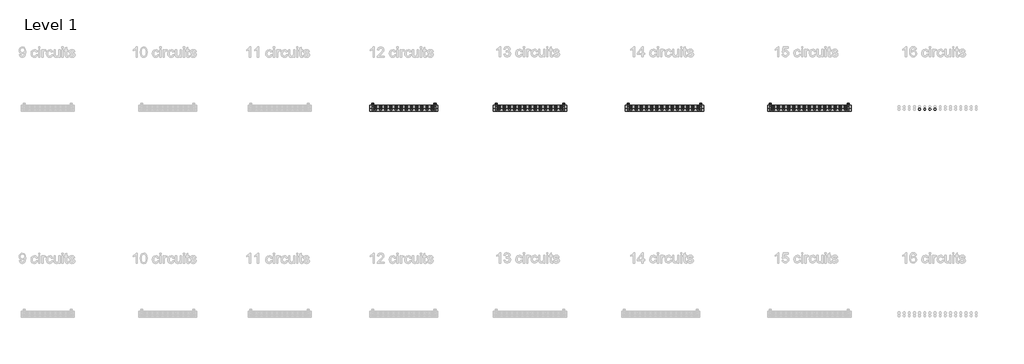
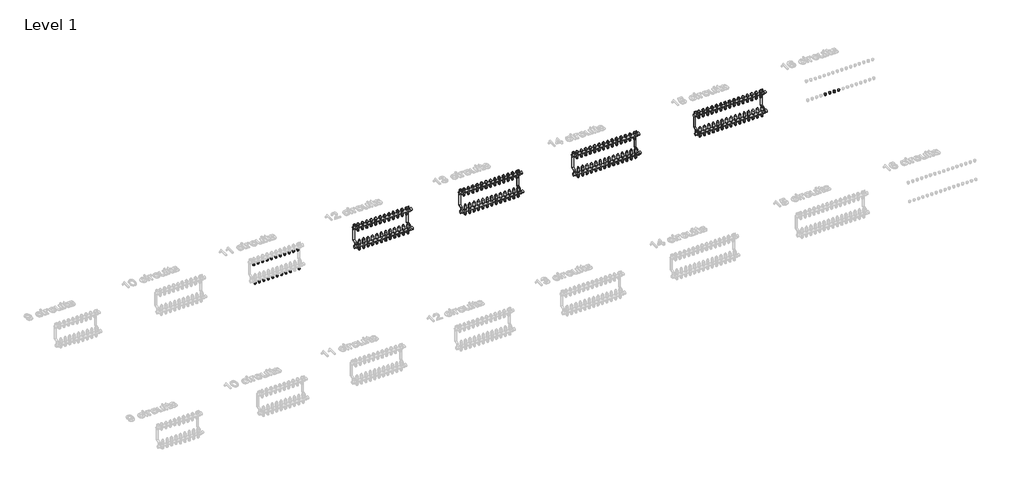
# One storey, part 4 of 13: 133 pipe fittings, 4 valves.
"""IFC4 building model written with IfcOpenShell, lengths in millimetres."""

from ifc_helpers import new_model, si_unit, origin, place, context, project, spatial, transform, mapped, element, save
from components import pipe_fitting_03c6499f, valve_b043caab, valve_d1a48dd4, valve_8c27288c, valve_323f5917, valve_2908c385, valve_c6b07a0e, valve_afcc5f03, valve_d5daf2db, valve_eef75e3c, valve_ba84b301, valve_6797e1c4, valve_e0eb0583, valve_b42ebe50, valve_7d993025, valve_5755080d, valve_f9b138b1

model = new_model("IFC4")

# Units and contexts
model_context = context("Model", 3, world=origin())
ifc_project = project(units=[si_unit("LENGTHUNIT", "METRE", prefix="MILLI")], contexts=[model_context])

# Site, building, storey
site = spatial("IfcSite", under=ifc_project)
building = spatial("IfcBuilding", under=site)
storey = spatial("IfcBuildingStorey", under=building, Name="Level 1", Elevation=0.0)

# Pipe fittings
placement = place(None, origin())
pipe_fitting_shape = pipe_fitting_03c6499f(model_context)
element("IfcPipeFitting", 1, ObjectType="Euroconus screwing for multilayer pipes - Manifold FT : Euroconus screwing for multilayer pipes - Manifold FT", at=placement, inside=storey, context=model_context, shape_type="MappedRepresentation", body=[
    mapped(pipe_fitting_shape, transform((10757.2354504, 1582.3227774, -37.0816103), x_axis=(0.0, 0.0, -1.0), y_axis=(0.0, 1.0000000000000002, 0.0), z_axis=(1.0000000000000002, 0.0, 0.0))),
])
element("IfcPipeFitting", 2, ObjectType="Euroconus screwing for multilayer pipes - Manifold FT : Euroconus screwing for multilayer pipes - Manifold FT", at=placement, inside=storey, context=model_context, shape_type="MappedRepresentation", body=[
    mapped(pipe_fitting_shape, transform((10707.2354504, 1582.3227774, -37.0816103), x_axis=(0.0, 0.0, -1.0), y_axis=(0.0, 1.0000000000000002, 0.0), z_axis=(1.0000000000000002, 0.0, 0.0))),
])
element("IfcPipeFitting", 3, ObjectType="Euroconus screwing for multilayer pipes - Manifold FT : Euroconus screwing for multilayer pipes - Manifold FT", at=placement, inside=storey, context=model_context, shape_type="MappedRepresentation", body=[
    mapped(pipe_fitting_shape, transform((10657.2354504, 1582.3227774, -37.0816103), x_axis=(0.0, 0.0, -1.0), y_axis=(0.0, 1.0000000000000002, 0.0), z_axis=(1.0000000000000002, 0.0, 0.0))),
])
element("IfcPipeFitting", 4, ObjectType="Euroconus screwing for multilayer pipes - Manifold FT : Euroconus screwing for multilayer pipes - Manifold FT", at=placement, inside=storey, context=model_context, shape_type="MappedRepresentation", body=[
    mapped(pipe_fitting_shape, transform((10607.2354504, 1582.3227774, -37.0816103), x_axis=(0.0, 0.0, -1.0), y_axis=(0.0, 1.0000000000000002, 0.0), z_axis=(1.0000000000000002, 0.0, 0.0))),
])
element("IfcPipeFitting", 5, ObjectType="Euroconus screwing for multilayer pipes - Manifold FT : Euroconus screwing for multilayer pipes - Manifold FT", at=placement, inside=storey, context=model_context, shape_type="MappedRepresentation", body=[
    mapped(pipe_fitting_shape, transform((10557.2354504, 1582.3227774, -37.0816103), x_axis=(0.0, 0.0, -1.0), y_axis=(0.0, 1.0000000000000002, 0.0), z_axis=(1.0000000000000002, 0.0, 0.0))),
])
element("IfcPipeFitting", 6, ObjectType="Euroconus screwing for multilayer pipes - Manifold FT : Euroconus screwing for multilayer pipes - Manifold FT", at=placement, inside=storey, context=model_context, shape_type="MappedRepresentation", body=[
    mapped(pipe_fitting_shape, transform((10507.2354504, 1582.3227774, -37.0816103), x_axis=(0.0, 0.0, -1.0), y_axis=(0.0, 1.0000000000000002, 0.0), z_axis=(1.0000000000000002, 0.0, 0.0))),
])
element("IfcPipeFitting", 7, ObjectType="Euroconus screwing for multilayer pipes - Manifold FT : Euroconus screwing for multilayer pipes - Manifold FT", at=placement, inside=storey, context=model_context, shape_type="MappedRepresentation", body=[
    mapped(pipe_fitting_shape, transform((10457.2354504, 1582.3227774, -37.0816103), x_axis=(0.0, 0.0, -1.0), y_axis=(0.0, 1.0000000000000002, 0.0), z_axis=(1.0000000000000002, 0.0, 0.0))),
])
element("IfcPipeFitting", 8, ObjectType="Euroconus screwing for multilayer pipes - Manifold FT : Euroconus screwing for multilayer pipes - Manifold FT", at=placement, inside=storey, context=model_context, shape_type="MappedRepresentation", body=[
    mapped(pipe_fitting_shape, transform((10407.2354504, 1582.3227774, -37.0816103), x_axis=(0.0, 0.0, -1.0), y_axis=(0.0, 1.0000000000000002, 0.0), z_axis=(1.0000000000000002, 0.0, 0.0))),
])
element("IfcPipeFitting", 9, ObjectType="Euroconus screwing for multilayer pipes - Manifold FT : Euroconus screwing for multilayer pipes - Manifold FT", at=placement, inside=storey, context=model_context, shape_type="MappedRepresentation", body=[
    mapped(pipe_fitting_shape, transform((10857.2354504, 1582.3227774, -37.0816103), x_axis=(0.0, 0.0, -1.0), y_axis=(0.0, 1.0000000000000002, 0.0), z_axis=(1.0000000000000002, 0.0, 0.0))),
])
element("IfcPipeFitting", 10, ObjectType="Euroconus screwing for multilayer pipes - Manifold FT : Euroconus screwing for multilayer pipes - Manifold FT", at=placement, inside=storey, context=model_context, shape_type="MappedRepresentation", body=[
    mapped(pipe_fitting_shape, transform((10357.2354504, 1582.3227774, -37.0816103), x_axis=(0.0, 0.0, -1.0), y_axis=(0.0, 1.0000000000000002, 0.0), z_axis=(1.0000000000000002, 0.0, 0.0))),
])
element("IfcPipeFitting", 11, ObjectType="Euroconus screwing for multilayer pipes - Manifold FT : Euroconus screwing for multilayer pipes - Manifold FT", at=placement, inside=storey, context=model_context, shape_type="MappedRepresentation", body=[
    mapped(pipe_fitting_shape, transform((10807.2354504, 1607.3227774, 172.88733), x_axis=(0.0, 0.0, -1.0), y_axis=(0.0, 1.0000000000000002, 0.0), z_axis=(1.0000000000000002, 0.0, 0.0))),
])
element("IfcPipeFitting", 12, ObjectType="Euroconus screwing for multilayer pipes - Manifold FT : Euroconus screwing for multilayer pipes - Manifold FT", at=placement, inside=storey, context=model_context, shape_type="MappedRepresentation", body=[
    mapped(pipe_fitting_shape, transform((10757.2354504, 1607.3227774, 172.88733), x_axis=(0.0, 0.0, -1.0), y_axis=(0.0, 1.0000000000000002, 0.0), z_axis=(1.0000000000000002, 0.0, 0.0))),
])
element("IfcPipeFitting", 13, ObjectType="Euroconus screwing for multilayer pipes - Manifold FT : Euroconus screwing for multilayer pipes - Manifold FT", at=placement, inside=storey, context=model_context, shape_type="MappedRepresentation", body=[
    mapped(pipe_fitting_shape, transform((10707.2354504, 1607.3227774, 172.88733), x_axis=(0.0, 0.0, -1.0), y_axis=(0.0, 1.0000000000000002, 0.0), z_axis=(1.0000000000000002, 0.0, 0.0))),
])
element("IfcPipeFitting", 14, ObjectType="Euroconus screwing for multilayer pipes - Manifold FT : Euroconus screwing for multilayer pipes - Manifold FT", at=placement, inside=storey, context=model_context, shape_type="MappedRepresentation", body=[
    mapped(pipe_fitting_shape, transform((10657.2354504, 1607.3227774, 172.88733), x_axis=(0.0, 0.0, -1.0), y_axis=(0.0, 1.0000000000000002, 0.0), z_axis=(1.0000000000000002, 0.0, 0.0))),
])
element("IfcPipeFitting", 15, ObjectType="Euroconus screwing for multilayer pipes - Manifold FT : Euroconus screwing for multilayer pipes - Manifold FT", at=placement, inside=storey, context=model_context, shape_type="MappedRepresentation", body=[
    mapped(pipe_fitting_shape, transform((10607.2354504, 1607.3227774, 172.88733), x_axis=(0.0, 0.0, -1.0), y_axis=(0.0, 1.0000000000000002, 0.0), z_axis=(1.0000000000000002, 0.0, 0.0))),
])
element("IfcPipeFitting", 16, ObjectType="Euroconus screwing for multilayer pipes - Manifold FT : Euroconus screwing for multilayer pipes - Manifold FT", at=placement, inside=storey, context=model_context, shape_type="MappedRepresentation", body=[
    mapped(pipe_fitting_shape, transform((10557.2354504, 1607.3227774, 172.88733), x_axis=(0.0, 0.0, -1.0), y_axis=(0.0, 1.0000000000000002, 0.0), z_axis=(1.0000000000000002, 0.0, 0.0))),
])
element("IfcPipeFitting", 17, ObjectType="Euroconus screwing for multilayer pipes - Manifold FT : Euroconus screwing for multilayer pipes - Manifold FT", at=placement, inside=storey, context=model_context, shape_type="MappedRepresentation", body=[
    mapped(pipe_fitting_shape, transform((10507.2354504, 1607.3227774, 172.88733), x_axis=(0.0, 0.0, -1.0), y_axis=(0.0, 1.0000000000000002, 0.0), z_axis=(1.0000000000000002, 0.0, 0.0))),
])
element("IfcPipeFitting", 18, ObjectType="Euroconus screwing for multilayer pipes - Manifold FT : Euroconus screwing for multilayer pipes - Manifold FT", at=placement, inside=storey, context=model_context, shape_type="MappedRepresentation", body=[
    mapped(pipe_fitting_shape, transform((10457.2354504, 1607.3227774, 172.88733), x_axis=(0.0, 0.0, -1.0), y_axis=(0.0, 1.0000000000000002, 0.0), z_axis=(1.0000000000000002, 0.0, 0.0))),
])
element("IfcPipeFitting", 19, ObjectType="Euroconus screwing for multilayer pipes - Manifold FT : Euroconus screwing for multilayer pipes - Manifold FT", at=placement, inside=storey, context=model_context, shape_type="MappedRepresentation", body=[
    mapped(pipe_fitting_shape, transform((10407.2354504, 1607.3227774, 172.88733), x_axis=(0.0, 0.0, -1.0), y_axis=(0.0, 1.0000000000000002, 0.0), z_axis=(1.0000000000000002, 0.0, 0.0))),
])
element("IfcPipeFitting", 20, ObjectType="Euroconus screwing for multilayer pipes - Manifold FT : Euroconus screwing for multilayer pipes - Manifold FT", at=placement, inside=storey, context=model_context, shape_type="MappedRepresentation", body=[
    mapped(pipe_fitting_shape, transform((10857.2354504, 1607.3227774, 172.88733), x_axis=(0.0, 0.0, -1.0), y_axis=(0.0, 1.0000000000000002, 0.0), z_axis=(1.0000000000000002, 0.0, 0.0))),
])
element("IfcPipeFitting", 21, ObjectType="Euroconus screwing for multilayer pipes - Manifold FT : Euroconus screwing for multilayer pipes - Manifold FT", at=placement, inside=storey, context=model_context, shape_type="MappedRepresentation", body=[
    mapped(pipe_fitting_shape, transform((10357.2354504, 1607.3227774, 172.88733), x_axis=(0.0, 0.0, -1.0), y_axis=(0.0, 1.0000000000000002, 0.0), z_axis=(1.0000000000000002, 0.0, 0.0))),
])
element("IfcPipeFitting", 22, ObjectType="Euroconus screwing for multilayer pipes - Manifold FT : Euroconus screwing for multilayer pipes - Manifold FT", at=placement, inside=storey, context=model_context, shape_type="MappedRepresentation", body=[
    mapped(pipe_fitting_shape, transform((12037.2354504, 1582.3227774, -37.0816103), x_axis=(0.0, 0.0, -1.0), y_axis=(0.0, 1.0000000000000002, 0.0), z_axis=(1.0000000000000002, 0.0, 0.0))),
])
element("IfcPipeFitting", 23, ObjectType="Euroconus screwing for multilayer pipes - Manifold FT : Euroconus screwing for multilayer pipes - Manifold FT", at=placement, inside=storey, context=model_context, shape_type="MappedRepresentation", body=[
    mapped(pipe_fitting_shape, transform((11987.2354504, 1582.3227774, -37.0816103), x_axis=(0.0, 0.0, -1.0), y_axis=(0.0, 1.0000000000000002, 0.0), z_axis=(1.0000000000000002, 0.0, 0.0))),
])
element("IfcPipeFitting", 24, ObjectType="Euroconus screwing for multilayer pipes - Manifold FT : Euroconus screwing for multilayer pipes - Manifold FT", at=placement, inside=storey, context=model_context, shape_type="MappedRepresentation", body=[
    mapped(pipe_fitting_shape, transform((11937.2354504, 1582.3227774, -37.0816103), x_axis=(0.0, 0.0, -1.0), y_axis=(0.0, 1.0000000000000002, 0.0), z_axis=(1.0000000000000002, 0.0, 0.0))),
])
element("IfcPipeFitting", 25, ObjectType="Euroconus screwing for multilayer pipes - Manifold FT : Euroconus screwing for multilayer pipes - Manifold FT", at=placement, inside=storey, context=model_context, shape_type="MappedRepresentation", body=[
    mapped(pipe_fitting_shape, transform((11887.2354504, 1582.3227774, -37.0816103), x_axis=(0.0, 0.0, -1.0), y_axis=(0.0, 1.0000000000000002, 0.0), z_axis=(1.0000000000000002, 0.0, 0.0))),
])
element("IfcPipeFitting", 26, ObjectType="Euroconus screwing for multilayer pipes - Manifold FT : Euroconus screwing for multilayer pipes - Manifold FT", at=placement, inside=storey, context=model_context, shape_type="MappedRepresentation", body=[
    mapped(pipe_fitting_shape, transform((11837.2354504, 1582.3227774, -37.0816103), x_axis=(0.0, 0.0, -1.0), y_axis=(0.0, 1.0000000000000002, 0.0), z_axis=(1.0000000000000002, 0.0, 0.0))),
])
element("IfcPipeFitting", 27, ObjectType="Euroconus screwing for multilayer pipes - Manifold FT : Euroconus screwing for multilayer pipes - Manifold FT", at=placement, inside=storey, context=model_context, shape_type="MappedRepresentation", body=[
    mapped(pipe_fitting_shape, transform((11787.2354504, 1582.3227774, -37.0816103), x_axis=(0.0, 0.0, -1.0), y_axis=(0.0, 1.0000000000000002, 0.0), z_axis=(1.0000000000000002, 0.0, 0.0))),
])
element("IfcPipeFitting", 28, ObjectType="Euroconus screwing for multilayer pipes - Manifold FT : Euroconus screwing for multilayer pipes - Manifold FT", at=placement, inside=storey, context=model_context, shape_type="MappedRepresentation", body=[
    mapped(pipe_fitting_shape, transform((11737.2354504, 1582.3227774, -37.0816103), x_axis=(0.0, 0.0, -1.0), y_axis=(0.0, 1.0000000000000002, 0.0), z_axis=(1.0000000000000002, 0.0, 0.0))),
])
element("IfcPipeFitting", 29, ObjectType="Euroconus screwing for multilayer pipes - Manifold FT : Euroconus screwing for multilayer pipes - Manifold FT", at=placement, inside=storey, context=model_context, shape_type="MappedRepresentation", body=[
    mapped(pipe_fitting_shape, transform((11687.2354504, 1582.3227774, -37.0816103), x_axis=(0.0, 0.0, -1.0), y_axis=(0.0, 1.0000000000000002, 0.0), z_axis=(1.0000000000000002, 0.0, 0.0))),
])
element("IfcPipeFitting", 30, ObjectType="Euroconus screwing for multilayer pipes - Manifold FT : Euroconus screwing for multilayer pipes - Manifold FT", at=placement, inside=storey, context=model_context, shape_type="MappedRepresentation", body=[
    mapped(pipe_fitting_shape, transform((11637.2354504, 1582.3227774, -37.0816103), x_axis=(0.0, 0.0, -1.0), y_axis=(0.0, 1.0000000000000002, 0.0), z_axis=(1.0000000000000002, 0.0, 0.0))),
])
element("IfcPipeFitting", 31, ObjectType="Euroconus screwing for multilayer pipes - Manifold FT : Euroconus screwing for multilayer pipes - Manifold FT", at=placement, inside=storey, context=model_context, shape_type="MappedRepresentation", body=[
    mapped(pipe_fitting_shape, transform((11587.2354504, 1582.3227774, -37.0816103), x_axis=(0.0, 0.0, -1.0), y_axis=(0.0, 1.0000000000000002, 0.0), z_axis=(1.0000000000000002, 0.0, 0.0))),
])
element("IfcPipeFitting", 32, ObjectType="Euroconus screwing for multilayer pipes - Manifold FT : Euroconus screwing for multilayer pipes - Manifold FT", at=placement, inside=storey, context=model_context, shape_type="MappedRepresentation", body=[
    mapped(pipe_fitting_shape, transform((12087.2354504, 1582.3227774, -37.0816103), x_axis=(0.0, 0.0, -1.0), y_axis=(0.0, 1.0000000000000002, 0.0), z_axis=(1.0000000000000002, 0.0, 0.0))),
])
element("IfcPipeFitting", 33, ObjectType="Euroconus screwing for multilayer pipes - Manifold FT : Euroconus screwing for multilayer pipes - Manifold FT", at=placement, inside=storey, context=model_context, shape_type="MappedRepresentation", body=[
    mapped(pipe_fitting_shape, transform((11537.2354504, 1582.3227774, -37.0816103), x_axis=(0.0, 0.0, -1.0), y_axis=(0.0, 1.0000000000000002, 0.0), z_axis=(1.0000000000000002, 0.0, 0.0))),
])
element("IfcPipeFitting", 34, ObjectType="Euroconus screwing for multilayer pipes - Manifold FT : Euroconus screwing for multilayer pipes - Manifold FT", at=placement, inside=storey, context=model_context, shape_type="MappedRepresentation", body=[
    mapped(pipe_fitting_shape, transform((12037.2354504, 1607.3227774, 172.88733), x_axis=(0.0, 0.0, -1.0), y_axis=(0.0, 1.0000000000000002, 0.0), z_axis=(1.0000000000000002, 0.0, 0.0))),
])
element("IfcPipeFitting", 35, ObjectType="Euroconus screwing for multilayer pipes - Manifold FT : Euroconus screwing for multilayer pipes - Manifold FT", at=placement, inside=storey, context=model_context, shape_type="MappedRepresentation", body=[
    mapped(pipe_fitting_shape, transform((11987.2354504, 1607.3227774, 172.88733), x_axis=(0.0, 0.0, -1.0), y_axis=(0.0, 1.0000000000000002, 0.0), z_axis=(1.0000000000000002, 0.0, 0.0))),
])
element("IfcPipeFitting", 36, ObjectType="Euroconus screwing for multilayer pipes - Manifold FT : Euroconus screwing for multilayer pipes - Manifold FT", at=placement, inside=storey, context=model_context, shape_type="MappedRepresentation", body=[
    mapped(pipe_fitting_shape, transform((11937.2354504, 1607.3227774, 172.88733), x_axis=(0.0, 0.0, -1.0), y_axis=(0.0, 1.0000000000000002, 0.0), z_axis=(1.0000000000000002, 0.0, 0.0))),
])
element("IfcPipeFitting", 37, ObjectType="Euroconus screwing for multilayer pipes - Manifold FT : Euroconus screwing for multilayer pipes - Manifold FT", at=placement, inside=storey, context=model_context, shape_type="MappedRepresentation", body=[
    mapped(pipe_fitting_shape, transform((11887.2354504, 1607.3227774, 172.88733), x_axis=(0.0, 0.0, -1.0), y_axis=(0.0, 1.0000000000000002, 0.0), z_axis=(1.0000000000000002, 0.0, 0.0))),
])
element("IfcPipeFitting", 38, ObjectType="Euroconus screwing for multilayer pipes - Manifold FT : Euroconus screwing for multilayer pipes - Manifold FT", at=placement, inside=storey, context=model_context, shape_type="MappedRepresentation", body=[
    mapped(pipe_fitting_shape, transform((11837.2354504, 1607.3227774, 172.88733), x_axis=(0.0, 0.0, -1.0), y_axis=(0.0, 1.0000000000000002, 0.0), z_axis=(1.0000000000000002, 0.0, 0.0))),
])
element("IfcPipeFitting", 39, ObjectType="Euroconus screwing for multilayer pipes - Manifold FT : Euroconus screwing for multilayer pipes - Manifold FT", at=placement, inside=storey, context=model_context, shape_type="MappedRepresentation", body=[
    mapped(pipe_fitting_shape, transform((11787.2354504, 1607.3227774, 172.88733), x_axis=(0.0, 0.0, -1.0), y_axis=(0.0, 1.0000000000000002, 0.0), z_axis=(1.0000000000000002, 0.0, 0.0))),
])
element("IfcPipeFitting", 40, ObjectType="Euroconus screwing for multilayer pipes - Manifold FT : Euroconus screwing for multilayer pipes - Manifold FT", at=placement, inside=storey, context=model_context, shape_type="MappedRepresentation", body=[
    mapped(pipe_fitting_shape, transform((11737.2354504, 1607.3227774, 172.88733), x_axis=(0.0, 0.0, -1.0), y_axis=(0.0, 1.0000000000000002, 0.0), z_axis=(1.0000000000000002, 0.0, 0.0))),
])
element("IfcPipeFitting", 41, ObjectType="Euroconus screwing for multilayer pipes - Manifold FT : Euroconus screwing for multilayer pipes - Manifold FT", at=placement, inside=storey, context=model_context, shape_type="MappedRepresentation", body=[
    mapped(pipe_fitting_shape, transform((11687.2354504, 1607.3227774, 172.88733), x_axis=(0.0, 0.0, -1.0), y_axis=(0.0, 1.0000000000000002, 0.0), z_axis=(1.0000000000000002, 0.0, 0.0))),
])
element("IfcPipeFitting", 42, ObjectType="Euroconus screwing for multilayer pipes - Manifold FT : Euroconus screwing for multilayer pipes - Manifold FT", at=placement, inside=storey, context=model_context, shape_type="MappedRepresentation", body=[
    mapped(pipe_fitting_shape, transform((11637.2354504, 1607.3227774, 172.88733), x_axis=(0.0, 0.0, -1.0), y_axis=(0.0, 1.0000000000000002, 0.0), z_axis=(1.0000000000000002, 0.0, 0.0))),
])
element("IfcPipeFitting", 43, ObjectType="Euroconus screwing for multilayer pipes - Manifold FT : Euroconus screwing for multilayer pipes - Manifold FT", at=placement, inside=storey, context=model_context, shape_type="MappedRepresentation", body=[
    mapped(pipe_fitting_shape, transform((11587.2354504, 1607.3227774, 172.88733), x_axis=(0.0, 0.0, -1.0), y_axis=(0.0, 1.0000000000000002, 0.0), z_axis=(1.0000000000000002, 0.0, 0.0))),
])
element("IfcPipeFitting", 44, ObjectType="Euroconus screwing for multilayer pipes - Manifold FT : Euroconus screwing for multilayer pipes - Manifold FT", at=placement, inside=storey, context=model_context, shape_type="MappedRepresentation", body=[
    mapped(pipe_fitting_shape, transform((12087.2354504, 1607.3227774, 172.88733), x_axis=(0.0, 0.0, -1.0), y_axis=(0.0, 1.0000000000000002, 0.0), z_axis=(1.0000000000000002, 0.0, 0.0))),
])
element("IfcPipeFitting", 45, ObjectType="Euroconus screwing for multilayer pipes - Manifold FT : Euroconus screwing for multilayer pipes - Manifold FT", at=placement, inside=storey, context=model_context, shape_type="MappedRepresentation", body=[
    mapped(pipe_fitting_shape, transform((11537.2354504, 1607.3227774, 172.88733), x_axis=(0.0, 0.0, -1.0), y_axis=(0.0, 1.0000000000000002, 0.0), z_axis=(1.0000000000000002, 0.0, 0.0))),
])
element("IfcPipeFitting", 46, ObjectType="Euroconus screwing for multilayer pipes - Manifold FT : Euroconus screwing for multilayer pipes - Manifold FT", at=placement, inside=storey, context=model_context, shape_type="MappedRepresentation", body=[
    mapped(pipe_fitting_shape, transform((13287.2354504, 1582.3227774, -37.0816103), x_axis=(0.0, 0.0, -1.0), y_axis=(0.0, 1.0000000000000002, 0.0), z_axis=(1.0000000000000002, 0.0, 0.0))),
])
element("IfcPipeFitting", 47, ObjectType="Euroconus screwing for multilayer pipes - Manifold FT : Euroconus screwing for multilayer pipes - Manifold FT", at=placement, inside=storey, context=model_context, shape_type="MappedRepresentation", body=[
    mapped(pipe_fitting_shape, transform((13237.2354504, 1582.3227774, -37.0816103), x_axis=(0.0, 0.0, -1.0), y_axis=(0.0, 1.0000000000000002, 0.0), z_axis=(1.0000000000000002, 0.0, 0.0))),
])
element("IfcPipeFitting", 48, ObjectType="Euroconus screwing for multilayer pipes - Manifold FT : Euroconus screwing for multilayer pipes - Manifold FT", at=placement, inside=storey, context=model_context, shape_type="MappedRepresentation", body=[
    mapped(pipe_fitting_shape, transform((13187.2354504, 1582.3227774, -37.0816103), x_axis=(0.0, 0.0, -1.0), y_axis=(0.0, 1.0000000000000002, 0.0), z_axis=(1.0000000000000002, 0.0, 0.0))),
])
element("IfcPipeFitting", 49, ObjectType="Euroconus screwing for multilayer pipes - Manifold FT : Euroconus screwing for multilayer pipes - Manifold FT", at=placement, inside=storey, context=model_context, shape_type="MappedRepresentation", body=[
    mapped(pipe_fitting_shape, transform((13137.2354504, 1582.3227774, -37.0816103), x_axis=(0.0, 0.0, -1.0), y_axis=(0.0, 1.0000000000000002, 0.0), z_axis=(1.0000000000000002, 0.0, 0.0))),
])
element("IfcPipeFitting", 50, ObjectType="Euroconus screwing for multilayer pipes - Manifold FT : Euroconus screwing for multilayer pipes - Manifold FT", at=placement, inside=storey, context=model_context, shape_type="MappedRepresentation", body=[
    mapped(pipe_fitting_shape, transform((13087.2354504, 1582.3227774, -37.0816103), x_axis=(0.0, 0.0, -1.0), y_axis=(0.0, 1.0000000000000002, 0.0), z_axis=(1.0000000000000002, 0.0, 0.0))),
])
element("IfcPipeFitting", 51, ObjectType="Euroconus screwing for multilayer pipes - Manifold FT : Euroconus screwing for multilayer pipes - Manifold FT", at=placement, inside=storey, context=model_context, shape_type="MappedRepresentation", body=[
    mapped(pipe_fitting_shape, transform((13037.2354504, 1582.3227774, -37.0816103), x_axis=(0.0, 0.0, -1.0), y_axis=(0.0, 1.0000000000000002, 0.0), z_axis=(1.0000000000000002, 0.0, 0.0))),
])
element("IfcPipeFitting", 52, ObjectType="Euroconus screwing for multilayer pipes - Manifold FT : Euroconus screwing for multilayer pipes - Manifold FT", at=placement, inside=storey, context=model_context, shape_type="MappedRepresentation", body=[
    mapped(pipe_fitting_shape, transform((12987.2354504, 1582.3227774, -37.0816103), x_axis=(0.0, 0.0, -1.0), y_axis=(0.0, 1.0000000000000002, 0.0), z_axis=(1.0000000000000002, 0.0, 0.0))),
])
element("IfcPipeFitting", 53, ObjectType="Euroconus screwing for multilayer pipes - Manifold FT : Euroconus screwing for multilayer pipes - Manifold FT", at=placement, inside=storey, context=model_context, shape_type="MappedRepresentation", body=[
    mapped(pipe_fitting_shape, transform((12937.2354504, 1582.3227774, -37.0816103), x_axis=(0.0, 0.0, -1.0), y_axis=(0.0, 1.0000000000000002, 0.0), z_axis=(1.0000000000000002, 0.0, 0.0))),
])
element("IfcPipeFitting", 54, ObjectType="Euroconus screwing for multilayer pipes - Manifold FT : Euroconus screwing for multilayer pipes - Manifold FT", at=placement, inside=storey, context=model_context, shape_type="MappedRepresentation", body=[
    mapped(pipe_fitting_shape, transform((12887.2354504, 1582.3227774, -37.0816103), x_axis=(0.0, 0.0, -1.0), y_axis=(0.0, 1.0000000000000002, 0.0), z_axis=(1.0000000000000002, 0.0, 0.0))),
])
element("IfcPipeFitting", 55, ObjectType="Euroconus screwing for multilayer pipes - Manifold FT : Euroconus screwing for multilayer pipes - Manifold FT", at=placement, inside=storey, context=model_context, shape_type="MappedRepresentation", body=[
    mapped(pipe_fitting_shape, transform((12837.2354504, 1582.3227774, -37.0816103), x_axis=(0.0, 0.0, -1.0), y_axis=(0.0, 1.0000000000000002, 0.0), z_axis=(1.0000000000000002, 0.0, 0.0))),
])
element("IfcPipeFitting", 56, ObjectType="Euroconus screwing for multilayer pipes - Manifold FT : Euroconus screwing for multilayer pipes - Manifold FT", at=placement, inside=storey, context=model_context, shape_type="MappedRepresentation", body=[
    mapped(pipe_fitting_shape, transform((12787.2354504, 1582.3227774, -37.0816103), x_axis=(0.0, 0.0, -1.0), y_axis=(0.0, 1.0000000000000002, 0.0), z_axis=(1.0000000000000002, 0.0, 0.0))),
])
element("IfcPipeFitting", 57, ObjectType="Euroconus screwing for multilayer pipes - Manifold FT : Euroconus screwing for multilayer pipes - Manifold FT", at=placement, inside=storey, context=model_context, shape_type="MappedRepresentation", body=[
    mapped(pipe_fitting_shape, transform((13337.2354504, 1582.3227774, -37.0816103), x_axis=(0.0, 0.0, -1.0), y_axis=(0.0, 1.0000000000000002, 0.0), z_axis=(1.0000000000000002, 0.0, 0.0))),
])
element("IfcPipeFitting", 58, ObjectType="Euroconus screwing for multilayer pipes - Manifold FT : Euroconus screwing for multilayer pipes - Manifold FT", at=placement, inside=storey, context=model_context, shape_type="MappedRepresentation", body=[
    mapped(pipe_fitting_shape, transform((12737.2354504, 1582.3227774, -37.0816103), x_axis=(0.0, 0.0, -1.0), y_axis=(0.0, 1.0000000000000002, 0.0), z_axis=(1.0000000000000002, 0.0, 0.0))),
])
element("IfcPipeFitting", 59, ObjectType="Euroconus screwing for multilayer pipes - Manifold FT : Euroconus screwing for multilayer pipes - Manifold FT", at=placement, inside=storey, context=model_context, shape_type="MappedRepresentation", body=[
    mapped(pipe_fitting_shape, transform((13287.2354504, 1607.3227774, 172.88733), x_axis=(0.0, 0.0, -1.0), y_axis=(0.0, 1.0000000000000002, 0.0), z_axis=(1.0000000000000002, 0.0, 0.0))),
])
element("IfcPipeFitting", 60, ObjectType="Euroconus screwing for multilayer pipes - Manifold FT : Euroconus screwing for multilayer pipes - Manifold FT", at=placement, inside=storey, context=model_context, shape_type="MappedRepresentation", body=[
    mapped(pipe_fitting_shape, transform((13237.2354504, 1607.3227774, 172.88733), x_axis=(0.0, 0.0, -1.0), y_axis=(0.0, 1.0000000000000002, 0.0), z_axis=(1.0000000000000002, 0.0, 0.0))),
])
element("IfcPipeFitting", 61, ObjectType="Euroconus screwing for multilayer pipes - Manifold FT : Euroconus screwing for multilayer pipes - Manifold FT", at=placement, inside=storey, context=model_context, shape_type="MappedRepresentation", body=[
    mapped(pipe_fitting_shape, transform((13187.2354504, 1607.3227774, 172.88733), x_axis=(0.0, 0.0, -1.0), y_axis=(0.0, 1.0000000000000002, 0.0), z_axis=(1.0000000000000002, 0.0, 0.0))),
])
element("IfcPipeFitting", 62, ObjectType="Euroconus screwing for multilayer pipes - Manifold FT : Euroconus screwing for multilayer pipes - Manifold FT", at=placement, inside=storey, context=model_context, shape_type="MappedRepresentation", body=[
    mapped(pipe_fitting_shape, transform((13137.2354504, 1607.3227774, 172.88733), x_axis=(0.0, 0.0, -1.0), y_axis=(0.0, 1.0000000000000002, 0.0), z_axis=(1.0000000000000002, 0.0, 0.0))),
])
element("IfcPipeFitting", 63, ObjectType="Euroconus screwing for multilayer pipes - Manifold FT : Euroconus screwing for multilayer pipes - Manifold FT", at=placement, inside=storey, context=model_context, shape_type="MappedRepresentation", body=[
    mapped(pipe_fitting_shape, transform((13087.2354504, 1607.3227774, 172.88733), x_axis=(0.0, 0.0, -1.0), y_axis=(0.0, 1.0000000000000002, 0.0), z_axis=(1.0000000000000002, 0.0, 0.0))),
])
element("IfcPipeFitting", 64, ObjectType="Euroconus screwing for multilayer pipes - Manifold FT : Euroconus screwing for multilayer pipes - Manifold FT", at=placement, inside=storey, context=model_context, shape_type="MappedRepresentation", body=[
    mapped(pipe_fitting_shape, transform((13037.2354504, 1607.3227774, 172.88733), x_axis=(0.0, 0.0, -1.0), y_axis=(0.0, 1.0000000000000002, 0.0), z_axis=(1.0000000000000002, 0.0, 0.0))),
])
element("IfcPipeFitting", 65, ObjectType="Euroconus screwing for multilayer pipes - Manifold FT : Euroconus screwing for multilayer pipes - Manifold FT", at=placement, inside=storey, context=model_context, shape_type="MappedRepresentation", body=[
    mapped(pipe_fitting_shape, transform((12987.2354504, 1607.3227774, 172.88733), x_axis=(0.0, 0.0, -1.0), y_axis=(0.0, 1.0000000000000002, 0.0), z_axis=(1.0000000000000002, 0.0, 0.0))),
])
element("IfcPipeFitting", 66, ObjectType="Euroconus screwing for multilayer pipes - Manifold FT : Euroconus screwing for multilayer pipes - Manifold FT", at=placement, inside=storey, context=model_context, shape_type="MappedRepresentation", body=[
    mapped(pipe_fitting_shape, transform((12937.2354504, 1607.3227774, 172.88733), x_axis=(0.0, 0.0, -1.0), y_axis=(0.0, 1.0000000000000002, 0.0), z_axis=(1.0000000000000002, 0.0, 0.0))),
])
element("IfcPipeFitting", 67, ObjectType="Euroconus screwing for multilayer pipes - Manifold FT : Euroconus screwing for multilayer pipes - Manifold FT", at=placement, inside=storey, context=model_context, shape_type="MappedRepresentation", body=[
    mapped(pipe_fitting_shape, transform((12887.2354504, 1607.3227774, 172.88733), x_axis=(0.0, 0.0, -1.0), y_axis=(0.0, 1.0000000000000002, 0.0), z_axis=(1.0000000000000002, 0.0, 0.0))),
])
element("IfcPipeFitting", 68, ObjectType="Euroconus screwing for multilayer pipes - Manifold FT : Euroconus screwing for multilayer pipes - Manifold FT", at=placement, inside=storey, context=model_context, shape_type="MappedRepresentation", body=[
    mapped(pipe_fitting_shape, transform((12837.2354504, 1607.3227774, 172.88733), x_axis=(0.0, 0.0, -1.0), y_axis=(0.0, 1.0000000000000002, 0.0), z_axis=(1.0000000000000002, 0.0, 0.0))),
])
element("IfcPipeFitting", 69, ObjectType="Euroconus screwing for multilayer pipes - Manifold FT : Euroconus screwing for multilayer pipes - Manifold FT", at=placement, inside=storey, context=model_context, shape_type="MappedRepresentation", body=[
    mapped(pipe_fitting_shape, transform((12787.2354504, 1607.3227774, 172.88733), x_axis=(0.0, 0.0, -1.0), y_axis=(0.0, 1.0000000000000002, 0.0), z_axis=(1.0000000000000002, 0.0, 0.0))),
])
element("IfcPipeFitting", 70, ObjectType="Euroconus screwing for multilayer pipes - Manifold FT : Euroconus screwing for multilayer pipes - Manifold FT", at=placement, inside=storey, context=model_context, shape_type="MappedRepresentation", body=[
    mapped(pipe_fitting_shape, transform((13337.2354504, 1607.3227774, 172.88733), x_axis=(0.0, 0.0, -1.0), y_axis=(0.0, 1.0000000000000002, 0.0), z_axis=(1.0000000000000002, 0.0, 0.0))),
])
element("IfcPipeFitting", 71, ObjectType="Euroconus screwing for multilayer pipes - Manifold FT : Euroconus screwing for multilayer pipes - Manifold FT", at=placement, inside=storey, context=model_context, shape_type="MappedRepresentation", body=[
    mapped(pipe_fitting_shape, transform((12737.2354504, 1607.3227774, 172.88733), x_axis=(0.0, 0.0, -1.0), y_axis=(0.0, 1.0000000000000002, 0.0), z_axis=(1.0000000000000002, 0.0, 0.0))),
])
element("IfcPipeFitting", 72, ObjectType="Euroconus screwing for multilayer pipes - Manifold FT : Euroconus screwing for multilayer pipes - Manifold FT", at=placement, inside=storey, context=model_context, shape_type="MappedRepresentation", body=[
    mapped(pipe_fitting_shape, transform((14617.2354504, 1582.3227774, -37.0816103), x_axis=(0.0, 0.0, -1.0), y_axis=(0.0, 1.0000000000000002, 0.0), z_axis=(1.0000000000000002, 0.0, 0.0))),
])
element("IfcPipeFitting", 73, ObjectType="Euroconus screwing for multilayer pipes - Manifold FT : Euroconus screwing for multilayer pipes - Manifold FT", at=placement, inside=storey, context=model_context, shape_type="MappedRepresentation", body=[
    mapped(pipe_fitting_shape, transform((14567.2354504, 1582.3227774, -37.0816103), x_axis=(0.0, 0.0, -1.0), y_axis=(0.0, 1.0000000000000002, 0.0), z_axis=(1.0000000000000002, 0.0, 0.0))),
])
element("IfcPipeFitting", 74, ObjectType="Euroconus screwing for multilayer pipes - Manifold FT : Euroconus screwing for multilayer pipes - Manifold FT", at=placement, inside=storey, context=model_context, shape_type="MappedRepresentation", body=[
    mapped(pipe_fitting_shape, transform((14517.2354504, 1582.3227774, -37.0816103), x_axis=(0.0, 0.0, -1.0), y_axis=(0.0, 1.0000000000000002, 0.0), z_axis=(1.0000000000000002, 0.0, 0.0))),
])
element("IfcPipeFitting", 75, ObjectType="Euroconus screwing for multilayer pipes - Manifold FT : Euroconus screwing for multilayer pipes - Manifold FT", at=placement, inside=storey, context=model_context, shape_type="MappedRepresentation", body=[
    mapped(pipe_fitting_shape, transform((14467.2354504, 1582.3227774, -37.0816103), x_axis=(0.0, 0.0, -1.0), y_axis=(0.0, 1.0000000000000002, 0.0), z_axis=(1.0000000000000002, 0.0, 0.0))),
])
element("IfcPipeFitting", 76, ObjectType="Euroconus screwing for multilayer pipes - Manifold FT : Euroconus screwing for multilayer pipes - Manifold FT", at=placement, inside=storey, context=model_context, shape_type="MappedRepresentation", body=[
    mapped(pipe_fitting_shape, transform((14417.2354504, 1582.3227774, -37.0816103), x_axis=(0.0, 0.0, -1.0), y_axis=(0.0, 1.0000000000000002, 0.0), z_axis=(1.0000000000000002, 0.0, 0.0))),
])
element("IfcPipeFitting", 77, ObjectType="Euroconus screwing for multilayer pipes - Manifold FT : Euroconus screwing for multilayer pipes - Manifold FT", at=placement, inside=storey, context=model_context, shape_type="MappedRepresentation", body=[
    mapped(pipe_fitting_shape, transform((14367.2354504, 1582.3227774, -37.0816103), x_axis=(0.0, 0.0, -1.0), y_axis=(0.0, 1.0000000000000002, 0.0), z_axis=(1.0000000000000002, 0.0, 0.0))),
])
element("IfcPipeFitting", 78, ObjectType="Euroconus screwing for multilayer pipes - Manifold FT : Euroconus screwing for multilayer pipes - Manifold FT", at=placement, inside=storey, context=model_context, shape_type="MappedRepresentation", body=[
    mapped(pipe_fitting_shape, transform((14317.2354504, 1582.3227774, -37.0816103), x_axis=(0.0, 0.0, -1.0), y_axis=(0.0, 1.0000000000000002, 0.0), z_axis=(1.0000000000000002, 0.0, 0.0))),
])
element("IfcPipeFitting", 79, ObjectType="Euroconus screwing for multilayer pipes - Manifold FT : Euroconus screwing for multilayer pipes - Manifold FT", at=placement, inside=storey, context=model_context, shape_type="MappedRepresentation", body=[
    mapped(pipe_fitting_shape, transform((14267.2354504, 1582.3227774, -37.0816103), x_axis=(0.0, 0.0, -1.0), y_axis=(0.0, 1.0000000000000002, 0.0), z_axis=(1.0000000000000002, 0.0, 0.0))),
])
element("IfcPipeFitting", 80, ObjectType="Euroconus screwing for multilayer pipes - Manifold FT : Euroconus screwing for multilayer pipes - Manifold FT", at=placement, inside=storey, context=model_context, shape_type="MappedRepresentation", body=[
    mapped(pipe_fitting_shape, transform((14217.2354504, 1582.3227774, -37.0816103), x_axis=(0.0, 0.0, -1.0), y_axis=(0.0, 1.0000000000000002, 0.0), z_axis=(1.0000000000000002, 0.0, 0.0))),
])
element("IfcPipeFitting", 81, ObjectType="Euroconus screwing for multilayer pipes - Manifold FT : Euroconus screwing for multilayer pipes - Manifold FT", at=placement, inside=storey, context=model_context, shape_type="MappedRepresentation", body=[
    mapped(pipe_fitting_shape, transform((14167.2354504, 1582.3227774, -37.0816103), x_axis=(0.0, 0.0, -1.0), y_axis=(0.0, 1.0000000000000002, 0.0), z_axis=(1.0000000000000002, 0.0, 0.0))),
])
element("IfcPipeFitting", 82, ObjectType="Euroconus screwing for multilayer pipes - Manifold FT : Euroconus screwing for multilayer pipes - Manifold FT", at=placement, inside=storey, context=model_context, shape_type="MappedRepresentation", body=[
    mapped(pipe_fitting_shape, transform((14117.2354504, 1582.3227774, -37.0816103), x_axis=(0.0, 0.0, -1.0), y_axis=(0.0, 1.0000000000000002, 0.0), z_axis=(1.0000000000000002, 0.0, 0.0))),
])
element("IfcPipeFitting", 83, ObjectType="Euroconus screwing for multilayer pipes - Manifold FT : Euroconus screwing for multilayer pipes - Manifold FT", at=placement, inside=storey, context=model_context, shape_type="MappedRepresentation", body=[
    mapped(pipe_fitting_shape, transform((14067.2354504, 1582.3227774, -37.0816103), x_axis=(0.0, 0.0, -1.0), y_axis=(0.0, 1.0000000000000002, 0.0), z_axis=(1.0000000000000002, 0.0, 0.0))),
])
element("IfcPipeFitting", 84, ObjectType="Euroconus screwing for multilayer pipes - Manifold FT : Euroconus screwing for multilayer pipes - Manifold FT", at=placement, inside=storey, context=model_context, shape_type="MappedRepresentation", body=[
    mapped(pipe_fitting_shape, transform((14667.2354504, 1582.3227774, -37.0816103), x_axis=(0.0, 0.0, -1.0), y_axis=(0.0, 1.0000000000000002, 0.0), z_axis=(1.0000000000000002, 0.0, 0.0))),
])
element("IfcPipeFitting", 85, ObjectType="Euroconus screwing for multilayer pipes - Manifold FT : Euroconus screwing for multilayer pipes - Manifold FT", at=placement, inside=storey, context=model_context, shape_type="MappedRepresentation", body=[
    mapped(pipe_fitting_shape, transform((14017.2354504, 1582.3227774, -37.0816103), x_axis=(0.0, 0.0, -1.0), y_axis=(0.0, 1.0000000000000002, 0.0), z_axis=(1.0000000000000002, 0.0, 0.0))),
])
element("IfcPipeFitting", 86, ObjectType="Euroconus screwing for multilayer pipes - Manifold FT : Euroconus screwing for multilayer pipes - Manifold FT", at=placement, inside=storey, context=model_context, shape_type="MappedRepresentation", body=[
    mapped(pipe_fitting_shape, transform((14617.2354504, 1607.3227774, 172.88733), x_axis=(0.0, 0.0, -1.0), y_axis=(0.0, 1.0000000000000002, 0.0), z_axis=(1.0000000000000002, 0.0, 0.0))),
])
element("IfcPipeFitting", 87, ObjectType="Euroconus screwing for multilayer pipes - Manifold FT : Euroconus screwing for multilayer pipes - Manifold FT", at=placement, inside=storey, context=model_context, shape_type="MappedRepresentation", body=[
    mapped(pipe_fitting_shape, transform((14567.2354504, 1607.3227774, 172.88733), x_axis=(0.0, 0.0, -1.0), y_axis=(0.0, 1.0000000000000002, 0.0), z_axis=(1.0000000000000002, 0.0, 0.0))),
])
element("IfcPipeFitting", 88, ObjectType="Euroconus screwing for multilayer pipes - Manifold FT : Euroconus screwing for multilayer pipes - Manifold FT", at=placement, inside=storey, context=model_context, shape_type="MappedRepresentation", body=[
    mapped(pipe_fitting_shape, transform((14517.2354504, 1607.3227774, 172.88733), x_axis=(0.0, 0.0, -1.0), y_axis=(0.0, 1.0000000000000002, 0.0), z_axis=(1.0000000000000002, 0.0, 0.0))),
])
element("IfcPipeFitting", 89, ObjectType="Euroconus screwing for multilayer pipes - Manifold FT : Euroconus screwing for multilayer pipes - Manifold FT", at=placement, inside=storey, context=model_context, shape_type="MappedRepresentation", body=[
    mapped(pipe_fitting_shape, transform((14467.2354504, 1607.3227774, 172.88733), x_axis=(0.0, 0.0, -1.0), y_axis=(0.0, 1.0000000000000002, 0.0), z_axis=(1.0000000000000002, 0.0, 0.0))),
])
element("IfcPipeFitting", 90, ObjectType="Euroconus screwing for multilayer pipes - Manifold FT : Euroconus screwing for multilayer pipes - Manifold FT", at=placement, inside=storey, context=model_context, shape_type="MappedRepresentation", body=[
    mapped(pipe_fitting_shape, transform((14417.2354504, 1607.3227774, 172.88733), x_axis=(0.0, 0.0, -1.0), y_axis=(0.0, 1.0000000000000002, 0.0), z_axis=(1.0000000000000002, 0.0, 0.0))),
])
element("IfcPipeFitting", 91, ObjectType="Euroconus screwing for multilayer pipes - Manifold FT : Euroconus screwing for multilayer pipes - Manifold FT", at=placement, inside=storey, context=model_context, shape_type="MappedRepresentation", body=[
    mapped(pipe_fitting_shape, transform((14367.2354504, 1607.3227774, 172.88733), x_axis=(0.0, 0.0, -1.0), y_axis=(0.0, 1.0000000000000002, 0.0), z_axis=(1.0000000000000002, 0.0, 0.0))),
])
element("IfcPipeFitting", 92, ObjectType="Euroconus screwing for multilayer pipes - Manifold FT : Euroconus screwing for multilayer pipes - Manifold FT", at=placement, inside=storey, context=model_context, shape_type="MappedRepresentation", body=[
    mapped(pipe_fitting_shape, transform((14317.2354504, 1607.3227774, 172.88733), x_axis=(0.0, 0.0, -1.0), y_axis=(0.0, 1.0000000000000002, 0.0), z_axis=(1.0000000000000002, 0.0, 0.0))),
])
element("IfcPipeFitting", 93, ObjectType="Euroconus screwing for multilayer pipes - Manifold FT : Euroconus screwing for multilayer pipes - Manifold FT", at=placement, inside=storey, context=model_context, shape_type="MappedRepresentation", body=[
    mapped(pipe_fitting_shape, transform((14267.2354504, 1607.3227774, 172.88733), x_axis=(0.0, 0.0, -1.0), y_axis=(0.0, 1.0000000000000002, 0.0), z_axis=(1.0000000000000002, 0.0, 0.0))),
])
element("IfcPipeFitting", 94, ObjectType="Euroconus screwing for multilayer pipes - Manifold FT : Euroconus screwing for multilayer pipes - Manifold FT", at=placement, inside=storey, context=model_context, shape_type="MappedRepresentation", body=[
    mapped(pipe_fitting_shape, transform((14217.2354504, 1607.3227774, 172.88733), x_axis=(0.0, 0.0, -1.0), y_axis=(0.0, 1.0000000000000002, 0.0), z_axis=(1.0000000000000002, 0.0, 0.0))),
])
element("IfcPipeFitting", 95, ObjectType="Euroconus screwing for multilayer pipes - Manifold FT : Euroconus screwing for multilayer pipes - Manifold FT", at=placement, inside=storey, context=model_context, shape_type="MappedRepresentation", body=[
    mapped(pipe_fitting_shape, transform((14167.2354504, 1607.3227774, 172.88733), x_axis=(0.0, 0.0, -1.0), y_axis=(0.0, 1.0000000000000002, 0.0), z_axis=(1.0000000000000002, 0.0, 0.0))),
])
element("IfcPipeFitting", 96, ObjectType="Euroconus screwing for multilayer pipes - Manifold FT : Euroconus screwing for multilayer pipes - Manifold FT", at=placement, inside=storey, context=model_context, shape_type="MappedRepresentation", body=[
    mapped(pipe_fitting_shape, transform((14117.2354504, 1607.3227774, 172.88733), x_axis=(0.0, 0.0, -1.0), y_axis=(0.0, 1.0000000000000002, 0.0), z_axis=(1.0000000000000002, 0.0, 0.0))),
])
element("IfcPipeFitting", 97, ObjectType="Euroconus screwing for multilayer pipes - Manifold FT : Euroconus screwing for multilayer pipes - Manifold FT", at=placement, inside=storey, context=model_context, shape_type="MappedRepresentation", body=[
    mapped(pipe_fitting_shape, transform((14067.2354504, 1607.3227774, 172.88733), x_axis=(0.0, 0.0, -1.0), y_axis=(0.0, 1.0000000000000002, 0.0), z_axis=(1.0000000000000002, 0.0, 0.0))),
])
element("IfcPipeFitting", 98, ObjectType="Euroconus screwing for multilayer pipes - Manifold FT : Euroconus screwing for multilayer pipes - Manifold FT", at=placement, inside=storey, context=model_context, shape_type="MappedRepresentation", body=[
    mapped(pipe_fitting_shape, transform((14667.2354504, 1607.3227774, 172.88733), x_axis=(0.0, 0.0, -1.0), y_axis=(0.0, 1.0000000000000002, 0.0), z_axis=(1.0000000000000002, 0.0, 0.0))),
])
element("IfcPipeFitting", 99, ObjectType="Euroconus screwing for multilayer pipes - Manifold FT : Euroconus screwing for multilayer pipes - Manifold FT", at=placement, inside=storey, context=model_context, shape_type="MappedRepresentation", body=[
    mapped(pipe_fitting_shape, transform((14017.2354504, 1607.3227774, 172.88733), x_axis=(0.0, 0.0, -1.0), y_axis=(0.0, 1.0000000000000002, 0.0), z_axis=(1.0000000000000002, 0.0, 0.0))),
])
element("IfcPipeFitting", 100, ObjectType="Euroconus screwing for multilayer pipes - Manifold FT : Euroconus screwing for multilayer pipes - Manifold FT", at=placement, inside=storey, context=model_context, shape_type="MappedRepresentation", body=[
    mapped(pipe_fitting_shape, transform((16047.2354504, 1582.3227774, -37.0816103), x_axis=(0.0, 0.0, -1.0), y_axis=(0.0, 1.0000000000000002, 0.0), z_axis=(1.0000000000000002, 0.0, 0.0))),
])
element("IfcPipeFitting", 101, ObjectType="Euroconus screwing for multilayer pipes - Manifold FT : Euroconus screwing for multilayer pipes - Manifold FT", at=placement, inside=storey, context=model_context, shape_type="MappedRepresentation", body=[
    mapped(pipe_fitting_shape, transform((15997.2354504, 1582.3227774, -37.0816103), x_axis=(0.0, 0.0, -1.0), y_axis=(0.0, 1.0000000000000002, 0.0), z_axis=(1.0000000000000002, 0.0, 0.0))),
])
element("IfcPipeFitting", 102, ObjectType="Euroconus screwing for multilayer pipes - Manifold FT : Euroconus screwing for multilayer pipes - Manifold FT", at=placement, inside=storey, context=model_context, shape_type="MappedRepresentation", body=[
    mapped(pipe_fitting_shape, transform((15947.2354504, 1582.3227774, -37.0816103), x_axis=(0.0, 0.0, -1.0), y_axis=(0.0, 1.0000000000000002, 0.0), z_axis=(1.0000000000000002, 0.0, 0.0))),
])
element("IfcPipeFitting", 103, ObjectType="Euroconus screwing for multilayer pipes - Manifold FT : Euroconus screwing for multilayer pipes - Manifold FT", at=placement, inside=storey, context=model_context, shape_type="MappedRepresentation", body=[
    mapped(pipe_fitting_shape, transform((15897.2354504, 1582.3227774, -37.0816103), x_axis=(0.0, 0.0, -1.0), y_axis=(0.0, 1.0000000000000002, 0.0), z_axis=(1.0000000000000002, 0.0, 0.0))),
])
element("IfcPipeFitting", 104, ObjectType="Euroconus screwing for multilayer pipes - Manifold FT : Euroconus screwing for multilayer pipes - Manifold FT", at=placement, inside=storey, context=model_context, shape_type="MappedRepresentation", body=[
    mapped(pipe_fitting_shape, transform((15847.2354504, 1582.3227774, -37.0816103), x_axis=(0.0, 0.0, -1.0), y_axis=(0.0, 1.0000000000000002, 0.0), z_axis=(1.0000000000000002, 0.0, 0.0))),
])
element("IfcPipeFitting", 105, ObjectType="Euroconus screwing for multilayer pipes - Manifold FT : Euroconus screwing for multilayer pipes - Manifold FT", at=placement, inside=storey, context=model_context, shape_type="MappedRepresentation", body=[
    mapped(pipe_fitting_shape, transform((15797.2354504, 1582.3227774, -37.0816103), x_axis=(0.0, 0.0, -1.0), y_axis=(0.0, 1.0000000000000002, 0.0), z_axis=(1.0000000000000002, 0.0, 0.0))),
])
element("IfcPipeFitting", 106, ObjectType="Euroconus screwing for multilayer pipes - Manifold FT : Euroconus screwing for multilayer pipes - Manifold FT", at=placement, inside=storey, context=model_context, shape_type="MappedRepresentation", body=[
    mapped(pipe_fitting_shape, transform((15747.2354504, 1582.3227774, -37.0816103), x_axis=(0.0, 0.0, -1.0), y_axis=(0.0, 1.0000000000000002, 0.0), z_axis=(1.0000000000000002, 0.0, 0.0))),
])
element("IfcPipeFitting", 107, ObjectType="Euroconus screwing for multilayer pipes - Manifold FT : Euroconus screwing for multilayer pipes - Manifold FT", at=placement, inside=storey, context=model_context, shape_type="MappedRepresentation", body=[
    mapped(pipe_fitting_shape, transform((15697.2354504, 1582.3227774, -37.0816103), x_axis=(0.0, 0.0, -1.0), y_axis=(0.0, 1.0000000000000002, 0.0), z_axis=(1.0000000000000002, 0.0, 0.0))),
])
element("IfcPipeFitting", 108, ObjectType="Euroconus screwing for multilayer pipes - Manifold FT : Euroconus screwing for multilayer pipes - Manifold FT", at=placement, inside=storey, context=model_context, shape_type="MappedRepresentation", body=[
    mapped(pipe_fitting_shape, transform((15647.2354504, 1582.3227774, -37.0816103), x_axis=(0.0, 0.0, -1.0), y_axis=(0.0, 1.0000000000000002, 0.0), z_axis=(1.0000000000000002, 0.0, 0.0))),
])
element("IfcPipeFitting", 109, ObjectType="Euroconus screwing for multilayer pipes - Manifold FT : Euroconus screwing for multilayer pipes - Manifold FT", at=placement, inside=storey, context=model_context, shape_type="MappedRepresentation", body=[
    mapped(pipe_fitting_shape, transform((15597.2354504, 1582.3227774, -37.0816103), x_axis=(0.0, 0.0, -1.0), y_axis=(0.0, 1.0000000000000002, 0.0), z_axis=(1.0000000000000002, 0.0, 0.0))),
])
element("IfcPipeFitting", 110, ObjectType="Euroconus screwing for multilayer pipes - Manifold FT : Euroconus screwing for multilayer pipes - Manifold FT", at=placement, inside=storey, context=model_context, shape_type="MappedRepresentation", body=[
    mapped(pipe_fitting_shape, transform((15547.2354504, 1582.3227774, -37.0816103), x_axis=(0.0, 0.0, -1.0), y_axis=(0.0, 1.0000000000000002, 0.0), z_axis=(1.0000000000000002, 0.0, 0.0))),
])
element("IfcPipeFitting", 111, ObjectType="Euroconus screwing for multilayer pipes - Manifold FT : Euroconus screwing for multilayer pipes - Manifold FT", at=placement, inside=storey, context=model_context, shape_type="MappedRepresentation", body=[
    mapped(pipe_fitting_shape, transform((15497.2354504, 1582.3227774, -37.0816103), x_axis=(0.0, 0.0, -1.0), y_axis=(0.0, 1.0000000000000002, 0.0), z_axis=(1.0000000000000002, 0.0, 0.0))),
])
element("IfcPipeFitting", 112, ObjectType="Euroconus screwing for multilayer pipes - Manifold FT : Euroconus screwing for multilayer pipes - Manifold FT", at=placement, inside=storey, context=model_context, shape_type="MappedRepresentation", body=[
    mapped(pipe_fitting_shape, transform((15447.2354504, 1582.3227774, -37.0816103), x_axis=(0.0, 0.0, -1.0), y_axis=(0.0, 1.0000000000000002, 0.0), z_axis=(1.0000000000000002, 0.0, 0.0))),
])
element("IfcPipeFitting", 113, ObjectType="Euroconus screwing for multilayer pipes - Manifold FT : Euroconus screwing for multilayer pipes - Manifold FT", at=placement, inside=storey, context=model_context, shape_type="MappedRepresentation", body=[
    mapped(pipe_fitting_shape, transform((16097.2354504, 1582.3227774, -37.0816103), x_axis=(0.0, 0.0, -1.0), y_axis=(0.0, 1.0000000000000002, 0.0), z_axis=(1.0000000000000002, 0.0, 0.0))),
])
element("IfcPipeFitting", 114, ObjectType="Euroconus screwing for multilayer pipes - Manifold FT : Euroconus screwing for multilayer pipes - Manifold FT", at=placement, inside=storey, context=model_context, shape_type="MappedRepresentation", body=[
    mapped(pipe_fitting_shape, transform((15397.2354504, 1582.3227774, -37.0816103), x_axis=(0.0, 0.0, -1.0), y_axis=(0.0, 1.0000000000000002, 0.0), z_axis=(1.0000000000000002, 0.0, 0.0))),
])
element("IfcPipeFitting", 115, ObjectType="Euroconus screwing for multilayer pipes - Manifold FT : Euroconus screwing for multilayer pipes - Manifold FT", at=placement, inside=storey, context=model_context, shape_type="MappedRepresentation", body=[
    mapped(pipe_fitting_shape, transform((16047.2354504, 1607.3227774, 172.88733), x_axis=(0.0, 0.0, -1.0), y_axis=(0.0, 1.0000000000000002, 0.0), z_axis=(1.0000000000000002, 0.0, 0.0))),
])
element("IfcPipeFitting", 116, ObjectType="Euroconus screwing for multilayer pipes - Manifold FT : Euroconus screwing for multilayer pipes - Manifold FT", at=placement, inside=storey, context=model_context, shape_type="MappedRepresentation", body=[
    mapped(pipe_fitting_shape, transform((15997.2354504, 1607.3227774, 172.88733), x_axis=(0.0, 0.0, -1.0), y_axis=(0.0, 1.0000000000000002, 0.0), z_axis=(1.0000000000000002, 0.0, 0.0))),
])
element("IfcPipeFitting", 117, ObjectType="Euroconus screwing for multilayer pipes - Manifold FT : Euroconus screwing for multilayer pipes - Manifold FT", at=placement, inside=storey, context=model_context, shape_type="MappedRepresentation", body=[
    mapped(pipe_fitting_shape, transform((15947.2354504, 1607.3227774, 172.88733), x_axis=(0.0, 0.0, -1.0), y_axis=(0.0, 1.0000000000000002, 0.0), z_axis=(1.0000000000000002, 0.0, 0.0))),
])
element("IfcPipeFitting", 118, ObjectType="Euroconus screwing for multilayer pipes - Manifold FT : Euroconus screwing for multilayer pipes - Manifold FT", at=placement, inside=storey, context=model_context, shape_type="MappedRepresentation", body=[
    mapped(pipe_fitting_shape, transform((15897.2354504, 1607.3227774, 172.88733), x_axis=(0.0, 0.0, -1.0), y_axis=(0.0, 1.0000000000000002, 0.0), z_axis=(1.0000000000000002, 0.0, 0.0))),
])
element("IfcPipeFitting", 119, ObjectType="Euroconus screwing for multilayer pipes - Manifold FT : Euroconus screwing for multilayer pipes - Manifold FT", at=placement, inside=storey, context=model_context, shape_type="MappedRepresentation", body=[
    mapped(pipe_fitting_shape, transform((15847.2354504, 1607.3227774, 172.88733), x_axis=(0.0, 0.0, -1.0), y_axis=(0.0, 1.0000000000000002, 0.0), z_axis=(1.0000000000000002, 0.0, 0.0))),
])
element("IfcPipeFitting", 120, ObjectType="Euroconus screwing for multilayer pipes - Manifold FT : Euroconus screwing for multilayer pipes - Manifold FT", at=placement, inside=storey, context=model_context, shape_type="MappedRepresentation", body=[
    mapped(pipe_fitting_shape, transform((15797.2354504, 1607.3227774, 172.88733), x_axis=(0.0, 0.0, -1.0), y_axis=(0.0, 1.0000000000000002, 0.0), z_axis=(1.0000000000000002, 0.0, 0.0))),
])
element("IfcPipeFitting", 121, ObjectType="Euroconus screwing for multilayer pipes - Manifold FT : Euroconus screwing for multilayer pipes - Manifold FT", at=placement, inside=storey, context=model_context, shape_type="MappedRepresentation", body=[
    mapped(pipe_fitting_shape, transform((15747.2354504, 1607.3227774, 172.88733), x_axis=(0.0, 0.0, -1.0), y_axis=(0.0, 1.0000000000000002, 0.0), z_axis=(1.0000000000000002, 0.0, 0.0))),
])
element("IfcPipeFitting", 122, ObjectType="Euroconus screwing for multilayer pipes - Manifold FT : Euroconus screwing for multilayer pipes - Manifold FT", at=placement, inside=storey, context=model_context, shape_type="MappedRepresentation", body=[
    mapped(pipe_fitting_shape, transform((15697.2354504, 1607.3227774, 172.88733), x_axis=(0.0, 0.0, -1.0), y_axis=(0.0, 1.0000000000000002, 0.0), z_axis=(1.0000000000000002, 0.0, 0.0))),
])
element("IfcPipeFitting", 123, ObjectType="Euroconus screwing for multilayer pipes - Manifold FT : Euroconus screwing for multilayer pipes - Manifold FT", at=placement, inside=storey, context=model_context, shape_type="MappedRepresentation", body=[
    mapped(pipe_fitting_shape, transform((15647.2354504, 1607.3227774, 172.88733), x_axis=(0.0, 0.0, -1.0), y_axis=(0.0, 1.0000000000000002, 0.0), z_axis=(1.0000000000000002, 0.0, 0.0))),
])
element("IfcPipeFitting", 124, ObjectType="Euroconus screwing for multilayer pipes - Manifold FT : Euroconus screwing for multilayer pipes - Manifold FT", at=placement, inside=storey, context=model_context, shape_type="MappedRepresentation", body=[
    mapped(pipe_fitting_shape, transform((15597.2354504, 1607.3227774, 172.88733), x_axis=(0.0, 0.0, -1.0), y_axis=(0.0, 1.0000000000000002, 0.0), z_axis=(1.0000000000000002, 0.0, 0.0))),
])
element("IfcPipeFitting", 125, ObjectType="Euroconus screwing for multilayer pipes - Manifold FT : Euroconus screwing for multilayer pipes - Manifold FT", at=placement, inside=storey, context=model_context, shape_type="MappedRepresentation", body=[
    mapped(pipe_fitting_shape, transform((15547.2354504, 1607.3227774, 172.88733), x_axis=(0.0, 0.0, -1.0), y_axis=(0.0, 1.0000000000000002, 0.0), z_axis=(1.0000000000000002, 0.0, 0.0))),
])
element("IfcPipeFitting", 126, ObjectType="Euroconus screwing for multilayer pipes - Manifold FT : Euroconus screwing for multilayer pipes - Manifold FT", at=placement, inside=storey, context=model_context, shape_type="MappedRepresentation", body=[
    mapped(pipe_fitting_shape, transform((15497.2354504, 1607.3227774, 172.88733), x_axis=(0.0, 0.0, -1.0), y_axis=(0.0, 1.0000000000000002, 0.0), z_axis=(1.0000000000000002, 0.0, 0.0))),
])
element("IfcPipeFitting", 127, ObjectType="Euroconus screwing for multilayer pipes - Manifold FT : Euroconus screwing for multilayer pipes - Manifold FT", at=placement, inside=storey, context=model_context, shape_type="MappedRepresentation", body=[
    mapped(pipe_fitting_shape, transform((15447.2354504, 1607.3227774, 172.88733), x_axis=(0.0, 0.0, -1.0), y_axis=(0.0, 1.0000000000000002, 0.0), z_axis=(1.0000000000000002, 0.0, 0.0))),
])
element("IfcPipeFitting", 128, ObjectType="Euroconus screwing for multilayer pipes - Manifold FT : Euroconus screwing for multilayer pipes - Manifold FT", at=placement, inside=storey, context=model_context, shape_type="MappedRepresentation", body=[
    mapped(pipe_fitting_shape, transform((16097.2354504, 1607.3227774, 172.88733), x_axis=(0.0, 0.0, -1.0), y_axis=(0.0, 1.0000000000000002, 0.0), z_axis=(1.0000000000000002, 0.0, 0.0))),
])
element("IfcPipeFitting", 129, ObjectType="Euroconus screwing for multilayer pipes - Manifold FT : Euroconus screwing for multilayer pipes - Manifold FT", at=placement, inside=storey, context=model_context, shape_type="MappedRepresentation", body=[
    mapped(pipe_fitting_shape, transform((15397.2354504, 1607.3227774, 172.88733), x_axis=(0.0, 0.0, -1.0), y_axis=(0.0, 1.0000000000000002, 0.0), z_axis=(1.0000000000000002, 0.0, 0.0))),
])
element("IfcPipeFitting", 130, ObjectType="Euroconus screwing for multilayer pipes - Manifold FT : Euroconus screwing for multilayer pipes - Manifold FT", at=placement, inside=storey, context=model_context, shape_type="MappedRepresentation", body=[
    mapped(pipe_fitting_shape, transform((16967.2354504, 1582.3227774, -37.0816103), x_axis=(0.0, 0.0, -1.0), y_axis=(0.0, 1.0000000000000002, 0.0), z_axis=(1.0000000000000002, 0.0, 0.0))),
])
element("IfcPipeFitting", 131, ObjectType="Euroconus screwing for multilayer pipes - Manifold FT : Euroconus screwing for multilayer pipes - Manifold FT", at=placement, inside=storey, context=model_context, shape_type="MappedRepresentation", body=[
    mapped(pipe_fitting_shape, transform((16917.2354504, 1582.3227774, -37.0816103), x_axis=(0.0, 0.0, -1.0), y_axis=(0.0, 1.0000000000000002, 0.0), z_axis=(1.0000000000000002, 0.0, 0.0))),
])
element("IfcPipeFitting", 132, ObjectType="Euroconus screwing for multilayer pipes - Manifold FT : Euroconus screwing for multilayer pipes - Manifold FT", at=placement, inside=storey, context=model_context, shape_type="MappedRepresentation", body=[
    mapped(pipe_fitting_shape, transform((16867.2354504, 1582.3227774, -37.0816103), x_axis=(0.0, 0.0, -1.0), y_axis=(0.0, 1.0000000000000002, 0.0), z_axis=(1.0000000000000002, 0.0, 0.0))),
])
element("IfcPipeFitting", 133, ObjectType="Euroconus screwing for multilayer pipes - Manifold FT : Euroconus screwing for multilayer pipes - Manifold FT", at=placement, inside=storey, context=model_context, shape_type="MappedRepresentation", body=[
    mapped(pipe_fitting_shape, transform((16817.2354504, 1582.3227774, -37.0816103), x_axis=(0.0, 0.0, -1.0), y_axis=(0.0, 1.0000000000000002, 0.0), z_axis=(1.0000000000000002, 0.0, 0.0))),
])

# Valves
valve_shape = valve_b043caab(model_context)
valve_2_shape = valve_d1a48dd4(model_context)
valve_3_shape = valve_8c27288c(model_context)
valve_4_shape = valve_323f5917(model_context)
element("IfcValve", 134, ObjectType="PL CZ_Manifold_FT-VA : 12 circuits", at=placement, inside=storey, context=model_context, shape_type="MappedRepresentation", body=[
    mapped(valve_shape, transform((11499.2354504, 1582.3227774, 0.0), x_axis=(1.0, 0.0, 0.0), y_axis=(0.0, 1.0, 0.0), z_axis=(0.0, 0.0, 1.0))),
    mapped(valve_2_shape, transform((11499.2354504, 1582.3227774, 0.0), x_axis=(1.0, 0.0, 0.0), y_axis=(0.0, 1.0, 0.0), z_axis=(0.0, 0.0, 1.0))),
    mapped(valve_3_shape, transform((11499.2354504, 1582.3227774, 0.0), x_axis=(1.0, 0.0, 0.0), y_axis=(0.0, 1.0, 0.0), z_axis=(0.0, 0.0, 1.0))),
    mapped(valve_4_shape, transform((11499.2354504, 1582.3227774, 0.0), x_axis=(1.0, 0.0, 0.0), y_axis=(0.0, 1.0, 0.0), z_axis=(0.0, 0.0, 1.0))),
])
valve_5_shape = valve_2908c385(model_context)
valve_6_shape = valve_c6b07a0e(model_context)
valve_7_shape = valve_afcc5f03(model_context)
valve_8_shape = valve_d5daf2db(model_context)
element("IfcValve", 135, ObjectType="PL CZ_Manifold_FT-VA : 13 circuits", at=placement, inside=storey, context=model_context, shape_type="MappedRepresentation", body=[
    mapped(valve_5_shape, transform((12699.2354504, 1582.3227774, 0.0), x_axis=(1.0, 0.0, 0.0), y_axis=(0.0, 1.0, 0.0), z_axis=(0.0, 0.0, 1.0))),
    mapped(valve_6_shape, transform((12699.2354504, 1582.3227774, 0.0), x_axis=(1.0, 0.0, 0.0), y_axis=(0.0, 1.0, 0.0), z_axis=(0.0, 0.0, 1.0))),
    mapped(valve_7_shape, transform((12699.2354504, 1582.3227774, 0.0), x_axis=(1.0, 0.0, 0.0), y_axis=(0.0, 1.0, 0.0), z_axis=(0.0, 0.0, 1.0))),
    mapped(valve_8_shape, transform((12699.2354504, 1582.3227774, 0.0), x_axis=(1.0, 0.0, 0.0), y_axis=(0.0, 1.0, 0.0), z_axis=(0.0, 0.0, 1.0))),
])
valve_9_shape = valve_eef75e3c(model_context)
valve_10_shape = valve_ba84b301(model_context)
valve_11_shape = valve_6797e1c4(model_context)
valve_12_shape = valve_e0eb0583(model_context)
element("IfcValve", 136, ObjectType="PL CZ_Manifold_FT-VA : 14 circuits", at=placement, inside=storey, context=model_context, shape_type="MappedRepresentation", body=[
    mapped(valve_9_shape, transform((13979.2354504, 1582.3227774, 0.0), x_axis=(1.0, 0.0, 0.0), y_axis=(0.0, 1.0, 0.0), z_axis=(0.0, 0.0, 1.0))),
    mapped(valve_10_shape, transform((13979.2354504, 1582.3227774, 0.0), x_axis=(1.0, 0.0, 0.0), y_axis=(0.0, 1.0, 0.0), z_axis=(0.0, 0.0, 1.0))),
    mapped(valve_11_shape, transform((13979.2354504, 1582.3227774, 0.0), x_axis=(1.0, 0.0, 0.0), y_axis=(0.0, 1.0, 0.0), z_axis=(0.0, 0.0, 1.0))),
    mapped(valve_12_shape, transform((13979.2354504, 1582.3227774, 0.0), x_axis=(1.0, 0.0, 0.0), y_axis=(0.0, 1.0, 0.0), z_axis=(0.0, 0.0, 1.0))),
])
valve_13_shape = valve_b42ebe50(model_context)
valve_14_shape = valve_7d993025(model_context)
valve_15_shape = valve_5755080d(model_context)
valve_16_shape = valve_f9b138b1(model_context)
element("IfcValve", 137, ObjectType="PL CZ_Manifold_FT-VA : 15 circuits", at=placement, inside=storey, context=model_context, shape_type="MappedRepresentation", body=[
    mapped(valve_13_shape, transform((15359.2354504, 1582.3227774, 0.0), x_axis=(1.0, 0.0, 0.0), y_axis=(0.0, 1.0, 0.0), z_axis=(0.0, 0.0, 1.0))),
    mapped(valve_14_shape, transform((15359.2354504, 1582.3227774, 0.0), x_axis=(1.0, 0.0, 0.0), y_axis=(0.0, 1.0, 0.0), z_axis=(0.0, 0.0, 1.0))),
    mapped(valve_15_shape, transform((15359.2354504, 1582.3227774, 0.0), x_axis=(1.0, 0.0, 0.0), y_axis=(0.0, 1.0, 0.0), z_axis=(0.0, 0.0, 1.0))),
    mapped(valve_16_shape, transform((15359.2354504, 1582.3227774, 0.0), x_axis=(1.0, 0.0, 0.0), y_axis=(0.0, 1.0, 0.0), z_axis=(0.0, 0.0, 1.0))),
])

save(model, "model.ifc")
